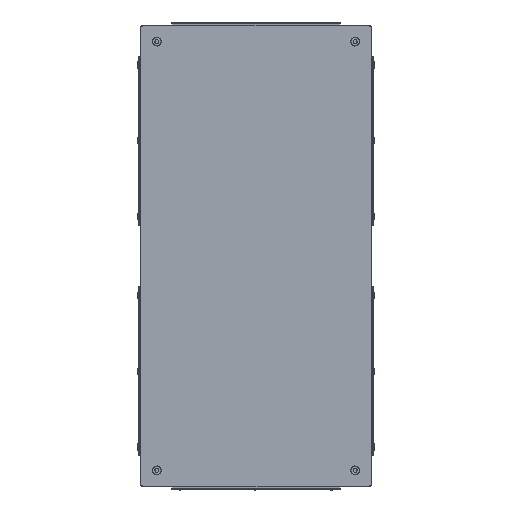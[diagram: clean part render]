
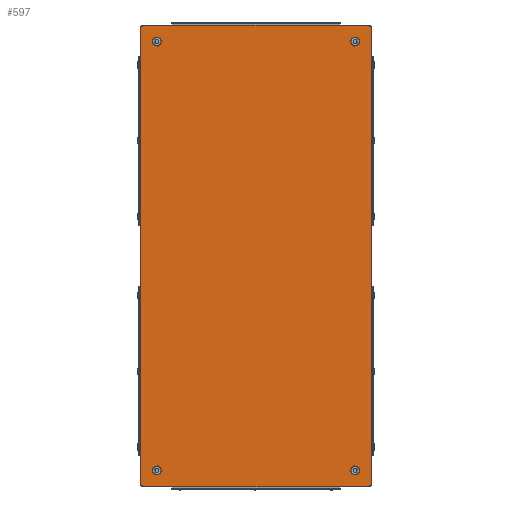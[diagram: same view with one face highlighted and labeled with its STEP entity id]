
A CAD part, front view. The second image highlights one B-rep face of the part: STEP entity #597.
In plain terms, the highlighted planar face has unit normal (0, -1, 0).
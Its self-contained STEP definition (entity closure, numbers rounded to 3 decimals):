
#597 = ADVANCED_FACE('',(#598,#618,#629,#649,#660),#782,.T.);
#598 = FACE_BOUND('',#599,.T.);
#599 = EDGE_LOOP('',(#600,#611));
#600 = ORIENTED_EDGE('',*,*,#601,.F.);
#601 = EDGE_CURVE('',#602,#604,#606,.T.);
#602 = VERTEX_POINT('',#603);
#603 = CARTESIAN_POINT('',(-129.,-1.2,-275.));
#604 = VERTEX_POINT('',#605);
#605 = CARTESIAN_POINT('',(-129.,-1.2,-283.));
#606 = CIRCLE('',#607,4.);
#607 = AXIS2_PLACEMENT_3D('',#608,#609,#610);
#608 = CARTESIAN_POINT('',(-129.,-1.2,-279.));
#609 = DIRECTION('',(0.,-1.,0.));
#610 = DIRECTION('',(0.,0.,1.));
#611 = ORIENTED_EDGE('',*,*,#612,.F.);
#612 = EDGE_CURVE('',#604,#602,#613,.T.);
#613 = CIRCLE('',#614,4.);
#614 = AXIS2_PLACEMENT_3D('',#615,#616,#617);
#615 = CARTESIAN_POINT('',(-129.,-1.2,-279.));
#616 = DIRECTION('',(0.,-1.,0.));
#617 = DIRECTION('',(0.,0.,1.));
#618 = FACE_BOUND('',#619,.T.);
#619 = EDGE_LOOP('',(#620));
#620 = ORIENTED_EDGE('',*,*,#621,.F.);
#621 = EDGE_CURVE('',#622,#622,#624,.T.);
#622 = VERTEX_POINT('',#623);
#623 = CARTESIAN_POINT('',(129.,-1.2,-283.));
#624 = CIRCLE('',#625,4.);
#625 = AXIS2_PLACEMENT_3D('',#626,#627,#628);
#626 = CARTESIAN_POINT('',(129.,-1.2,-279.));
#627 = DIRECTION('',(0.,-1.,0.));
#628 = DIRECTION('',(0.,0.,-1.));
#629 = FACE_BOUND('',#630,.T.);
#630 = EDGE_LOOP('',(#631,#642));
#631 = ORIENTED_EDGE('',*,*,#632,.F.);
#632 = EDGE_CURVE('',#633,#635,#637,.T.);
#633 = VERTEX_POINT('',#634);
#634 = CARTESIAN_POINT('',(129.,-1.2,283.));
#635 = VERTEX_POINT('',#636);
#636 = CARTESIAN_POINT('',(129.,-1.2,275.));
#637 = CIRCLE('',#638,4.);
#638 = AXIS2_PLACEMENT_3D('',#639,#640,#641);
#639 = CARTESIAN_POINT('',(129.,-1.2,279.));
#640 = DIRECTION('',(0.,-1.,0.));
#641 = DIRECTION('',(0.,0.,1.));
#642 = ORIENTED_EDGE('',*,*,#643,.F.);
#643 = EDGE_CURVE('',#635,#633,#644,.T.);
#644 = CIRCLE('',#645,4.);
#645 = AXIS2_PLACEMENT_3D('',#646,#647,#648);
#646 = CARTESIAN_POINT('',(129.,-1.2,279.));
#647 = DIRECTION('',(0.,-1.,0.));
#648 = DIRECTION('',(0.,0.,1.));
#649 = FACE_BOUND('',#650,.T.);
#650 = EDGE_LOOP('',(#651));
#651 = ORIENTED_EDGE('',*,*,#652,.F.);
#652 = EDGE_CURVE('',#653,#653,#655,.T.);
#653 = VERTEX_POINT('',#654);
#654 = CARTESIAN_POINT('',(-129.,-1.2,275.));
#655 = CIRCLE('',#656,4.);
#656 = AXIS2_PLACEMENT_3D('',#657,#658,#659);
#657 = CARTESIAN_POINT('',(-129.,-1.2,279.));
#658 = DIRECTION('',(0.,-1.,0.));
#659 = DIRECTION('',(0.,0.,-1.));
#660 = FACE_BOUND('',#661,.T.);
#661 = EDGE_LOOP('',(#662,#675,#686,#694,#705,#716,#724,#735,#746,#754,
    #765,#776));
#662 = ORIENTED_EDGE('',*,*,#663,.F.);
#663 = EDGE_CURVE('',#664,#666,#668,.T.);
#664 = VERTEX_POINT('',#665);
#665 = CARTESIAN_POINT('',(148.2,-1.2,298.2));
#666 = VERTEX_POINT('',#667);
#667 = CARTESIAN_POINT('',(150.,-1.2,298.574));
#668 = B_SPLINE_CURVE_WITH_KNOTS('',3,(#669,#670,#671,#672,#673,#674),
  .UNSPECIFIED.,.F.,.F.,(4,2,4),(0.004,0.005,
    0.006),.UNSPECIFIED.);
#669 = CARTESIAN_POINT('',(148.2,-1.2,298.2));
#670 = CARTESIAN_POINT('',(148.495,-1.2,298.287));
#671 = CARTESIAN_POINT('',(148.79,-1.2,298.371));
#672 = CARTESIAN_POINT('',(149.39,-1.2,298.498));
#673 = CARTESIAN_POINT('',(149.695,-1.2,298.543));
#674 = CARTESIAN_POINT('',(150.,-1.2,298.574));
#675 = ORIENTED_EDGE('',*,*,#676,.T.);
#676 = EDGE_CURVE('',#664,#677,#679,.T.);
#677 = VERTEX_POINT('',#678);
#678 = CARTESIAN_POINT('',(148.574,-1.2,300.));
#679 = B_SPLINE_CURVE_WITH_KNOTS('',3,(#680,#681,#682,#683,#684,#685),
  .UNSPECIFIED.,.F.,.F.,(4,2,4),(0.004,0.005,
    0.006),.UNSPECIFIED.);
#680 = CARTESIAN_POINT('',(148.2,-1.2,298.2));
#681 = CARTESIAN_POINT('',(148.287,-1.2,298.495));
#682 = CARTESIAN_POINT('',(148.371,-1.2,298.79));
#683 = CARTESIAN_POINT('',(148.498,-1.2,299.39));
#684 = CARTESIAN_POINT('',(148.543,-1.2,299.695));
#685 = CARTESIAN_POINT('',(148.574,-1.2,300.));
#686 = ORIENTED_EDGE('',*,*,#687,.T.);
#687 = EDGE_CURVE('',#677,#688,#690,.T.);
#688 = VERTEX_POINT('',#689);
#689 = CARTESIAN_POINT('',(-148.574,-1.2,300.));
#690 = LINE('',#691,#692);
#691 = CARTESIAN_POINT('',(3150.,-1.2,300.));
#692 = VECTOR('',#693,1.);
#693 = DIRECTION('',(-1.,0.,0.));
#694 = ORIENTED_EDGE('',*,*,#695,.F.);
#695 = EDGE_CURVE('',#696,#688,#698,.T.);
#696 = VERTEX_POINT('',#697);
#697 = CARTESIAN_POINT('',(-148.2,-1.2,298.2));
#698 = B_SPLINE_CURVE_WITH_KNOTS('',3,(#699,#700,#701,#702,#703,#704),
  .UNSPECIFIED.,.F.,.F.,(4,2,4),(0.004,0.005,
    0.006),.UNSPECIFIED.);
#699 = CARTESIAN_POINT('',(-148.2,-1.2,298.2));
#700 = CARTESIAN_POINT('',(-148.287,-1.2,298.495));
#701 = CARTESIAN_POINT('',(-148.371,-1.2,298.79));
#702 = CARTESIAN_POINT('',(-148.498,-1.2,299.39));
#703 = CARTESIAN_POINT('',(-148.543,-1.2,299.695));
#704 = CARTESIAN_POINT('',(-148.574,-1.2,300.));
#705 = ORIENTED_EDGE('',*,*,#706,.T.);
#706 = EDGE_CURVE('',#696,#707,#709,.T.);
#707 = VERTEX_POINT('',#708);
#708 = CARTESIAN_POINT('',(-150.,-1.2,298.574));
#709 = B_SPLINE_CURVE_WITH_KNOTS('',3,(#710,#711,#712,#713,#714,#715),
  .UNSPECIFIED.,.F.,.F.,(4,2,4),(0.004,0.005,
    0.006),.UNSPECIFIED.);
#710 = CARTESIAN_POINT('',(-148.2,-1.2,298.2));
#711 = CARTESIAN_POINT('',(-148.495,-1.2,298.287));
#712 = CARTESIAN_POINT('',(-148.79,-1.2,298.371));
#713 = CARTESIAN_POINT('',(-149.39,-1.2,298.498));
#714 = CARTESIAN_POINT('',(-149.695,-1.2,298.543));
#715 = CARTESIAN_POINT('',(-150.,-1.2,298.574));
#716 = ORIENTED_EDGE('',*,*,#717,.T.);
#717 = EDGE_CURVE('',#707,#718,#720,.T.);
#718 = VERTEX_POINT('',#719);
#719 = CARTESIAN_POINT('',(-150.,-1.2,-298.574));
#720 = LINE('',#721,#722);
#721 = CARTESIAN_POINT('',(-150.,-1.2,3300.));
#722 = VECTOR('',#723,1.);
#723 = DIRECTION('',(0.,0.,-1.));
#724 = ORIENTED_EDGE('',*,*,#725,.F.);
#725 = EDGE_CURVE('',#726,#718,#728,.T.);
#726 = VERTEX_POINT('',#727);
#727 = CARTESIAN_POINT('',(-148.2,-1.2,-298.2));
#728 = B_SPLINE_CURVE_WITH_KNOTS('',3,(#729,#730,#731,#732,#733,#734),
  .UNSPECIFIED.,.F.,.F.,(4,2,4),(0.004,0.005,
    0.006),.UNSPECIFIED.);
#729 = CARTESIAN_POINT('',(-148.2,-1.2,-298.2));
#730 = CARTESIAN_POINT('',(-148.495,-1.2,-298.287));
#731 = CARTESIAN_POINT('',(-148.79,-1.2,-298.371));
#732 = CARTESIAN_POINT('',(-149.39,-1.2,-298.498));
#733 = CARTESIAN_POINT('',(-149.695,-1.2,-298.543));
#734 = CARTESIAN_POINT('',(-150.,-1.2,-298.574));
#735 = ORIENTED_EDGE('',*,*,#736,.T.);
#736 = EDGE_CURVE('',#726,#737,#739,.T.);
#737 = VERTEX_POINT('',#738);
#738 = CARTESIAN_POINT('',(-148.574,-1.2,-300.));
#739 = B_SPLINE_CURVE_WITH_KNOTS('',3,(#740,#741,#742,#743,#744,#745),
  .UNSPECIFIED.,.F.,.F.,(4,2,4),(0.004,0.005,
    0.006),.UNSPECIFIED.);
#740 = CARTESIAN_POINT('',(-148.2,-1.2,-298.2));
#741 = CARTESIAN_POINT('',(-148.287,-1.2,-298.495));
#742 = CARTESIAN_POINT('',(-148.371,-1.2,-298.79));
#743 = CARTESIAN_POINT('',(-148.498,-1.2,-299.39));
#744 = CARTESIAN_POINT('',(-148.543,-1.2,-299.695));
#745 = CARTESIAN_POINT('',(-148.574,-1.2,-300.));
#746 = ORIENTED_EDGE('',*,*,#747,.T.);
#747 = EDGE_CURVE('',#737,#748,#750,.T.);
#748 = VERTEX_POINT('',#749);
#749 = CARTESIAN_POINT('',(148.574,-1.2,-300.));
#750 = LINE('',#751,#752);
#751 = CARTESIAN_POINT('',(-3150.,-1.2,-300.));
#752 = VECTOR('',#753,1.);
#753 = DIRECTION('',(1.,0.,0.));
#754 = ORIENTED_EDGE('',*,*,#755,.F.);
#755 = EDGE_CURVE('',#756,#748,#758,.T.);
#756 = VERTEX_POINT('',#757);
#757 = CARTESIAN_POINT('',(148.2,-1.2,-298.2));
#758 = B_SPLINE_CURVE_WITH_KNOTS('',3,(#759,#760,#761,#762,#763,#764),
  .UNSPECIFIED.,.F.,.F.,(4,2,4),(0.004,0.005,
    0.006),.UNSPECIFIED.);
#759 = CARTESIAN_POINT('',(148.2,-1.2,-298.2));
#760 = CARTESIAN_POINT('',(148.287,-1.2,-298.495));
#761 = CARTESIAN_POINT('',(148.371,-1.2,-298.79));
#762 = CARTESIAN_POINT('',(148.498,-1.2,-299.39));
#763 = CARTESIAN_POINT('',(148.543,-1.2,-299.695));
#764 = CARTESIAN_POINT('',(148.574,-1.2,-300.));
#765 = ORIENTED_EDGE('',*,*,#766,.T.);
#766 = EDGE_CURVE('',#756,#767,#769,.T.);
#767 = VERTEX_POINT('',#768);
#768 = CARTESIAN_POINT('',(150.,-1.2,-298.574));
#769 = B_SPLINE_CURVE_WITH_KNOTS('',3,(#770,#771,#772,#773,#774,#775),
  .UNSPECIFIED.,.F.,.F.,(4,2,4),(0.004,0.005,
    0.006),.UNSPECIFIED.);
#770 = CARTESIAN_POINT('',(148.2,-1.2,-298.2));
#771 = CARTESIAN_POINT('',(148.495,-1.2,-298.287));
#772 = CARTESIAN_POINT('',(148.79,-1.2,-298.371));
#773 = CARTESIAN_POINT('',(149.39,-1.2,-298.498));
#774 = CARTESIAN_POINT('',(149.695,-1.2,-298.543));
#775 = CARTESIAN_POINT('',(150.,-1.2,-298.574));
#776 = ORIENTED_EDGE('',*,*,#777,.T.);
#777 = EDGE_CURVE('',#767,#666,#778,.T.);
#778 = LINE('',#779,#780);
#779 = CARTESIAN_POINT('',(150.,-1.2,-3300.));
#780 = VECTOR('',#781,1.);
#781 = DIRECTION('',(0.,0.,1.));
#782 = PLANE('',#783);
#783 = AXIS2_PLACEMENT_3D('',#784,#785,#786);
#784 = CARTESIAN_POINT('',(0.,-1.2,0.));
#785 = DIRECTION('',(0.,-1.,0.));
#786 = DIRECTION('',(0.,-0.,-1.));
